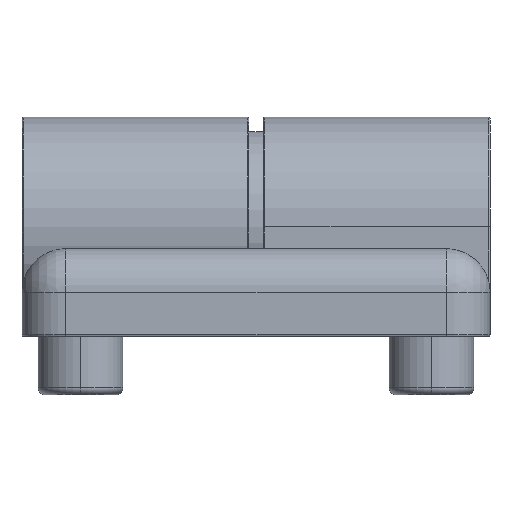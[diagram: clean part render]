
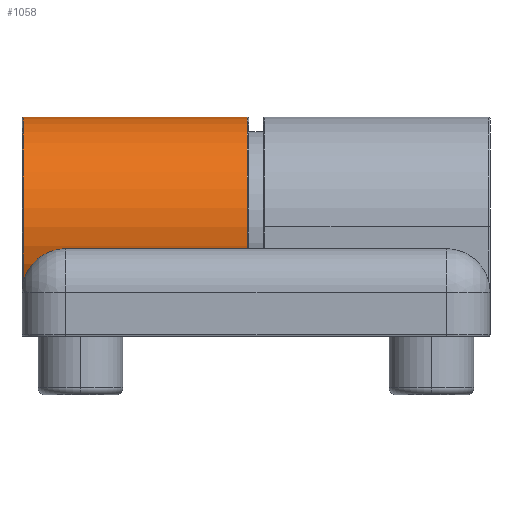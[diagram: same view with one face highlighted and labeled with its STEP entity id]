
A CAD part, left-side view. The second image highlights one B-rep face of the part: STEP entity #1058.
In plain terms, the highlighted cylindrical face has radius 7.5 mm (diameter 15 mm), a partial arc.
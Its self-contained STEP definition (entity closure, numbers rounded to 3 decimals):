
#102 = ORIENTED_EDGE ( 'NONE', *, *, #152, .T. ) ;
#152 = EDGE_CURVE ( 'NONE', #1352, #1686, #217, .T. ) ;
#214 = VECTOR ( 'NONE', #2002, 1000. ) ;
#217 = CIRCLE ( 'NONE', #1748, 7.5 ) ;
#235 = CIRCLE ( 'NONE', #1604, 7.5 ) ;
#257 = DIRECTION ( 'NONE',  ( 0., 0., -1. ) ) ;
#266 = LINE ( 'NONE', #1081, #214 ) ;
#329 = ORIENTED_EDGE ( 'NONE', *, *, #814, .T. ) ;
#381 = DIRECTION ( 'NONE',  ( 0., -1., 0. ) ) ;
#392 = ORIENTED_EDGE ( 'NONE', *, *, #1426, .F. ) ;
#443 = LINE ( 'NONE', #1619, #798 ) ;
#539 = DIRECTION ( 'NONE',  ( 0., 0., -1. ) ) ;
#564 = DIRECTION ( 'NONE',  ( 0., -1., 0. ) ) ;
#567 = CARTESIAN_POINT ( 'NONE',  ( -7.5, 0.1, 0. ) ) ;
#695 = DIRECTION ( 'NONE',  ( 0., -1., 0. ) ) ;
#793 = CARTESIAN_POINT ( 'NONE',  ( 0., 0.1, -7.5 ) ) ;
#798 = VECTOR ( 'NONE', #381, 1000. ) ;
#814 = EDGE_CURVE ( 'NONE', #1686, #1496, #266, .T. ) ;
#832 = CARTESIAN_POINT ( 'NONE',  ( 0., 0.1, 0. ) ) ;
#879 = EDGE_LOOP ( 'NONE', ( #329, #1480, #392, #102 ) ) ;
#980 = CARTESIAN_POINT ( 'NONE',  ( 0., 15.4, -7.5 ) ) ;
#994 = DIRECTION ( 'NONE',  ( 0., 0., -1. ) ) ;
#1058 = ADVANCED_FACE ( 'NONE', ( #1073 ), #1438, .T. ) ;
#1073 = FACE_OUTER_BOUND ( 'NONE', #879, .T. ) ;
#1081 = CARTESIAN_POINT ( 'NONE',  ( -7.5, 15.5, 0. ) ) ;
#1177 = CARTESIAN_POINT ( 'NONE',  ( -7.5, 15.4, 0. ) ) ;
#1270 = VERTEX_POINT ( 'NONE', #793 ) ;
#1352 = VERTEX_POINT ( 'NONE', #980 ) ;
#1426 = EDGE_CURVE ( 'NONE', #1352, #1270, #443, .T. ) ;
#1438 = CYLINDRICAL_SURFACE ( 'NONE', #1585, 7.5 ) ;
#1480 = ORIENTED_EDGE ( 'NONE', *, *, #1555, .T. ) ;
#1496 = VERTEX_POINT ( 'NONE', #567 ) ;
#1555 = EDGE_CURVE ( 'NONE', #1496, #1270, #235, .T. ) ;
#1585 = AXIS2_PLACEMENT_3D ( 'NONE', #1631, #695, #539 ) ;
#1604 = AXIS2_PLACEMENT_3D ( 'NONE', #832, #1916, #994 ) ;
#1619 = CARTESIAN_POINT ( 'NONE',  ( 0., 15.5, -7.5 ) ) ;
#1631 = CARTESIAN_POINT ( 'NONE',  ( 0., 15.5, 0. ) ) ;
#1686 = VERTEX_POINT ( 'NONE', #1177 ) ;
#1748 = AXIS2_PLACEMENT_3D ( 'NONE', #1961, #564, #257 ) ;
#1916 = DIRECTION ( 'NONE',  ( 0., 1., 0. ) ) ;
#1961 = CARTESIAN_POINT ( 'NONE',  ( 0., 15.4, 0. ) ) ;
#2002 = DIRECTION ( 'NONE',  ( 0., -1., 0. ) ) ;
